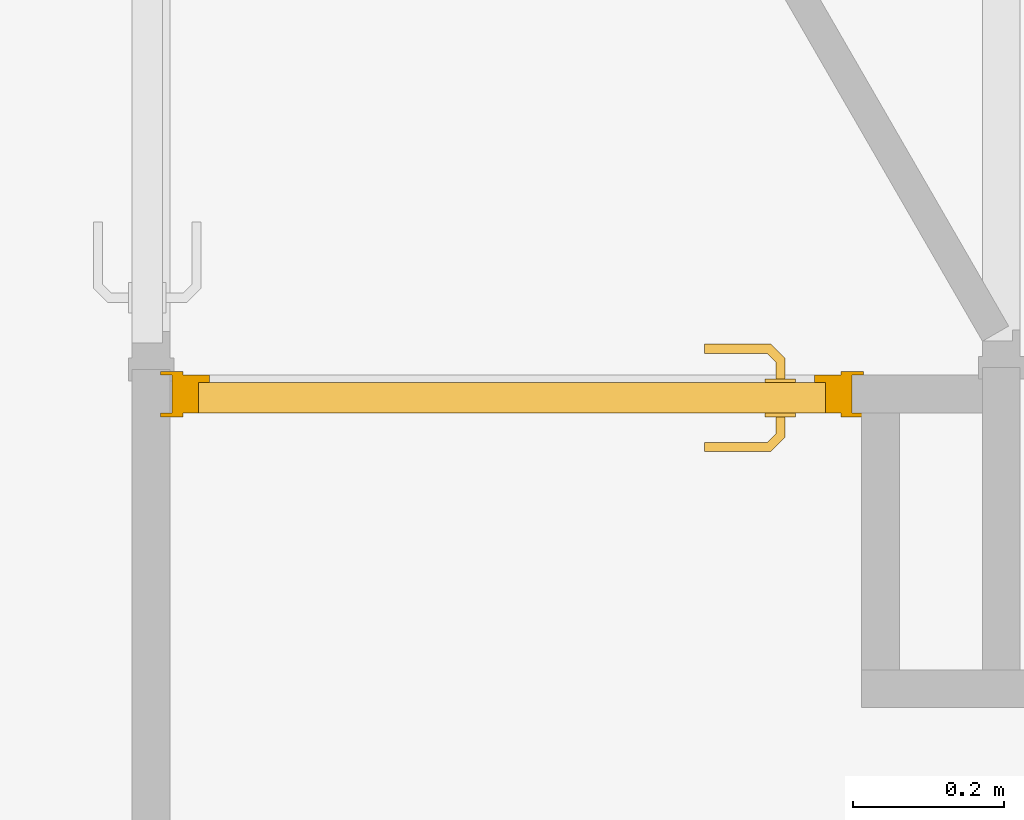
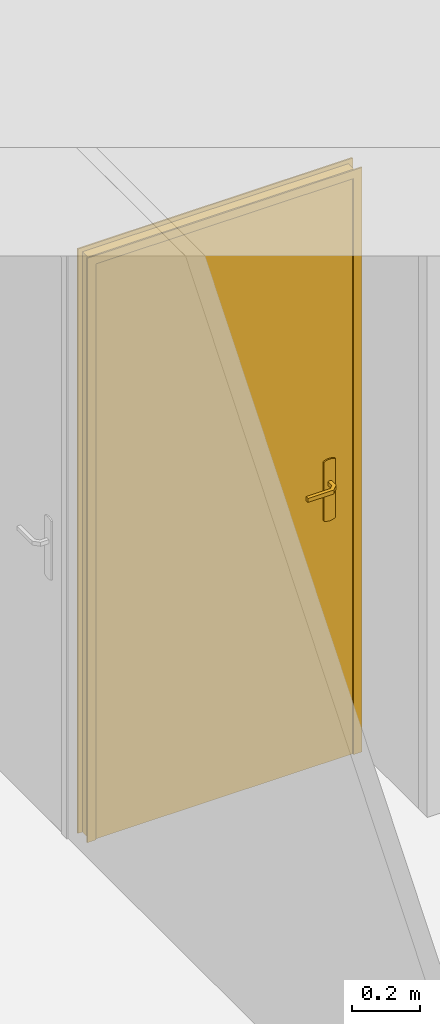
# One storey, part 9 of 14: 1 door.
"""IFC2X3 building model written with IfcOpenShell, lengths in millimetres."""

from ifc_helpers import new_model, entity, si_unit, converted_unit, direction, frame, origin, origin_with_axes, place, context, project, spatial, faceted_brep, element, save


model = new_model("IFC2X3")

# Units and contexts
model_context = context("Model", 3, precision=1e-05, world=origin(), true_north=direction((0.0, 1.0, 0.0)))
ifc_project = project(units=[si_unit("LENGTHUNIT", "METRE", prefix="MILLI"), si_unit("AREAUNIT", "SQUARE_METRE"), si_unit("VOLUMEUNIT", "CUBIC_METRE"), converted_unit("PLANEANGLEUNIT", "DEGREE", entity("IfcPlaneAngleMeasure", 0.01745), si_unit("PLANEANGLEUNIT", "RADIAN"), dimensions=[0, 0, 0, 0, 0, 0, 0]), si_unit("SOLIDANGLEUNIT", "STERADIAN"), si_unit("MASSUNIT", "GRAM"), si_unit("TIMEUNIT", "SECOND"), si_unit("THERMODYNAMICTEMPERATUREUNIT", "DEGREE_CELSIUS"), si_unit("LUMINOUSINTENSITYUNIT", "LUMEN")], contexts=[model_context])

# Site, building, storey
placement = place(None, origin_with_axes())
site_placement = place(placement, frame((11636.08881703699, 2815.7442167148, 4.768371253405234e-06), z_axis=(0.0, 0.0, 1.0), x_axis=(1.0, 0.0, 0.0)))
site = spatial("IfcSite", under=ifc_project, at=site_placement, Name="Surface", CompositionType="ELEMENT")
building_placement = place(placement, origin_with_axes())
building = spatial("IfcBuilding", under=site, at=building_placement, Name="Default Building", CompositionType="ELEMENT")
storey_placement = place(building_placement, origin_with_axes())
storey = spatial("IfcBuildingStorey", under=building, at=storey_placement, Name="Plan étage", CompositionType="ELEMENT", Elevation=0.0)

# Door
door_placement = place(storey_placement, frame((11636.08881703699, 2815.7442167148, 4.768371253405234e-06), z_axis=(0.0, 0.0, 1.0), x_axis=(1.0, 0.0, 0.0)))
element("IfcDoor", 1, at=door_placement, inside=storey, Name="IfcDoor - Int. Simple:PP (0.83m x 2.04m)", context=model_context, shape_type="Brep", body=[
    faceted_brep([(-768.5888164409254, 409.2557839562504, 2740.000042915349), (-738.5888152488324, 414.2557829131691, 2740.000042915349), (-738.5888152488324, 409.2557839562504, 2740.000042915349), (-768.5888164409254, 414.2557829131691, 2740.000042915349), (-1638.588821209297, 409.2557839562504, 2740.000042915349), (-1668.58882240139, 414.2557829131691, 2740.000042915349), (-1638.588821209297, 414.2557829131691, 2740.000042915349), (-1668.58882240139, 409.2557839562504, 2740.000042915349), (-768.5888164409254, 409.2557839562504, 4799.99998569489), (-1638.588821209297, 414.2557829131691, 4799.99998569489), (-768.5888164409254, 414.2557829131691, 4799.99998569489), (-1638.588821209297, 409.2557839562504, 4799.99998569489), (-738.5888152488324, 414.2557829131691, 4829.99995708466), (-1668.58882240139, 409.2557839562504, 4829.99995708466), (-738.5888152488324, 409.2557839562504, 4829.99995708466), (-1668.58882240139, 414.2557829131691, 4829.99995708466), (-768.5888164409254, 464.2557836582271, 4799.99998569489), (-1638.588821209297, 469.2557826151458, 4799.99998569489), (-768.5888164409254, 469.2557826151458, 4799.99998569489), (-1638.588821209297, 464.2557836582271, 4799.99998569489), (-738.5888152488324, 469.2557826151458, 4829.99995708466), (-1668.58882240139, 464.2557836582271, 4829.99995708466), (-738.5888152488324, 464.2557836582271, 4829.99995708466), (-1668.58882240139, 469.2557826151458, 4829.99995708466), (-1668.58882240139, 464.2557836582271, 2740.000042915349), (-1668.58882240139, 469.2557826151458, 2740.000042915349), (-1638.588821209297, 469.2557826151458, 2740.000042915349), (-1638.588821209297, 464.2557836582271, 2740.000042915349), (-768.5888164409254, 464.2557836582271, 2740.000042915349), (-768.5888164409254, 469.2557826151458, 2740.000042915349), (-738.5888152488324, 469.2557826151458, 2740.000042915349), (-738.5888152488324, 464.2557836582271, 2740.000042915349), (-788.5888271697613, 414.2557829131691, 4780.000004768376), (-1618.588810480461, 454.255782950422, 4780.000004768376), (-788.5888271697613, 454.255782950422, 4780.000004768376), (-1618.588810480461, 414.2557829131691, 4780.000004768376), (-803.5888128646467, 454.255782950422, 4765.000019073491), (-1603.588824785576, 464.2557836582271, 4765.000019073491), (-803.5888128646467, 464.2557836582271, 4765.000019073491), (-1603.588824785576, 454.255782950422, 4765.000019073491), (-753.5888307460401, 464.2557836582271, 4814.999971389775), (-1653.588806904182, 414.2557829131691, 4814.999971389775), (-753.5888307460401, 414.2557829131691, 4814.999971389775), (-1653.588806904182, 464.2557836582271, 4814.999971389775), (-1618.588810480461, 454.255782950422, 2740.000042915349), (-1618.588810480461, 414.2557829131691, 2740.000042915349), (-1603.588824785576, 464.2557836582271, 2740.000042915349), (-1603.588824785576, 454.255782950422, 2740.000042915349), (-1653.588806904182, 464.2557836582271, 2740.000042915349), (-1653.588806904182, 414.2557829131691, 2740.000042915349), (-788.5888271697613, 414.2557829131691, 2740.000042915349), (-753.5888307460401, 414.2557829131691, 2740.000042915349), (-788.5888271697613, 454.255782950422, 2740.000042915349), (-803.5888128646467, 454.255782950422, 2740.000042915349), (-803.5888128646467, 464.2557836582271, 2740.000042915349), (-753.5888307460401, 464.2557836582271, 2740.000042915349), (-788.5888271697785, 454.2557828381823, 4779.999980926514), (-788.5888271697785, 414.2557837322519, 2740.000019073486), (-788.5888271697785, 454.2557828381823, 2740.000019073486), (-788.5888271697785, 414.2557837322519, 4779.999980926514), (-1618.588810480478, 414.2557837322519, 2740.000019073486), (-1618.588810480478, 454.2557828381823, 2740.000019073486), (-1618.588810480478, 414.2557837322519, 4779.999980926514), (-1618.588810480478, 454.2557828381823, 4779.999980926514), (-864.4277258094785, 497.2009741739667, 3732.219558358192), (-906.5311635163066, 499.2262654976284, 3732.121313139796), (-862.7499128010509, 501.2515642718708, 3732.219558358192), (-901.034022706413, 505.2262702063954, 3732.999999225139), (-907.3543390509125, 493.2262682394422, 3732.999999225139), (-948.6346012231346, 497.2009741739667, 3732.219558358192), (-948.6346012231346, 501.2515642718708, 3732.219558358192), (-948.6346012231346, 493.2262682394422, 3732.999999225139), (-866.0741010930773, 493.2262682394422, 3732.999999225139), (-861.1035375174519, 505.2262702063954, 3732.999999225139), (-948.6346012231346, 505.2262702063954, 3732.999999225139), (-861.1035375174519, 505.2262702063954, 3747.000001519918), (-901.0340245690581, 505.2262702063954, 3747.000001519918), (-948.6346012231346, 505.2262702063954, 3747.000001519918), (-948.6346012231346, 497.2009741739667, 3747.780442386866), (-906.5311635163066, 499.2262654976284, 3747.878685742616), (-948.6346012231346, 501.2515642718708, 3747.780442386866), (-907.3543520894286, 493.2262682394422, 3747.000001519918), (-864.4277258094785, 497.2009741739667, 3747.780442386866), (-862.7499128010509, 501.2515642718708, 3747.780442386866), (-948.6346012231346, 493.2262682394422, 3747.000001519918), (-866.0741010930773, 493.2262682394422, 3747.000001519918), (-850.6141184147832, 483.3873630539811, 3732.219558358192), (-854.5888206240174, 481.7409896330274, 3732.999999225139), (-842.5888186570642, 486.7115513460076, 3732.999999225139), (-846.5635208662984, 485.0651741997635, 3732.219558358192), (-842.5888186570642, 486.7115513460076, 3747.000001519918), (-846.5635208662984, 485.0651741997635, 3747.780442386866), (-854.5888206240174, 481.7409896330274, 3747.000001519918), (-850.6141184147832, 483.3873630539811, 3747.780442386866), (-850.6141184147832, 459.255783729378, 3732.219558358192), (-854.5888206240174, 459.255783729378, 3732.999999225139), (-846.5635208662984, 459.255783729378, 3732.219558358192), (-842.5888186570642, 459.255783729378, 3732.999999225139), (-842.5888186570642, 459.255783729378, 3747.000001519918), (-846.5635208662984, 459.255783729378, 3747.780442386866), (-850.6141184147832, 459.255783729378, 3747.780442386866), (-854.5888206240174, 459.255783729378, 3747.000001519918), (-948.6074587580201, 363.2276215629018, 3732.999999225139), (-900.8965157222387, 363.2276215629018, 3747.000001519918), (-948.6074587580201, 363.2276215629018, 3747.000001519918), (-860.966029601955, 363.2276215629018, 3747.000001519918), (-900.896508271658, 363.2276215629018, 3732.999999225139), (-860.966029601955, 363.2276215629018, 3732.999999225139), (-948.6074587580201, 371.2529175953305, 3732.219558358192), (-906.4488383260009, 369.2276188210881, 3732.121313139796), (-948.6074587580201, 367.2023274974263, 3732.219558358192), (-907.2720250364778, 375.2276235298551, 3732.999999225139), (-864.2902160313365, 371.2529175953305, 3732.219558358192), (-862.6124048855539, 367.2023274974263, 3732.219558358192), (-948.6074587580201, 375.2276235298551, 3732.999999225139), (-865.9365913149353, 375.2276235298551, 3732.999999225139), (-948.6074587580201, 375.2276235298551, 3747.000001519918), (-907.2720250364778, 375.2276235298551, 3747.000001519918), (-865.9365913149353, 375.2276235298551, 3747.000001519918), (-864.2902160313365, 371.2529175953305, 3747.780442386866), (-906.4488383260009, 369.2276262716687, 3747.878685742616), (-862.6124048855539, 367.2023274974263, 3747.780442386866), (-948.6074587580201, 371.2529175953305, 3747.780442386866), (-948.6074587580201, 367.2023274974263, 3747.780442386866), (-842.5888186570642, 381.6048325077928, 3732.999999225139), (-842.5888186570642, 381.6048325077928, 3747.000001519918), (-846.5635208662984, 383.2512059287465, 3732.219558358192), (-854.5888206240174, 386.575394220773, 3732.999999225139), (-850.6141184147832, 384.9290207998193, 3732.219558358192), (-854.5888206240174, 386.575394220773, 3747.000001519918), (-850.6141184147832, 384.9290207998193, 3747.780442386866), (-846.5635208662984, 383.2512059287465, 3747.780442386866), (-842.5888186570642, 409.25578298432, 3732.999999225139), (-842.5888186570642, 409.25578298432, 3747.000001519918), (-846.5635208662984, 409.25578298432, 3732.219558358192), (-850.6141184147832, 409.25578298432, 3732.219558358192), (-854.5888206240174, 409.25578298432, 3732.999999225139), (-854.5888206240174, 409.25578298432, 3747.000001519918), (-850.6141184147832, 409.25578298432, 3747.780442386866), (-846.5635208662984, 409.25578298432, 3747.780442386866), (-868.588819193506, 459.255783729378, 3610.000003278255), (-868.588819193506, 454.2557829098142, 3819.999996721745), (-868.588819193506, 459.255783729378, 3819.999996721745), (-868.588819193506, 454.2557829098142, 3610.000003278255), (-858.9415801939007, 454.2557829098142, 3606.003981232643), (-858.9415801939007, 459.255783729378, 3606.003981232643), (-848.5888196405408, 459.255783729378, 3604.641016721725), (-848.5888196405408, 454.2557829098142, 3604.641016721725), (-838.2360553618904, 459.255783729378, 3606.003981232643), (-838.2360553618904, 454.2557829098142, 3606.003981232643), (-828.5888200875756, 459.255783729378, 3610.000003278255), (-828.5888200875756, 454.2557829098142, 3610.000003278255), (-828.5888200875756, 454.2557829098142, 3819.999996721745), (-828.5888200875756, 459.255783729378, 3819.999996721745), (-838.2360553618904, 454.2557829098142, 3823.996018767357), (-838.2360553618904, 459.255783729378, 3823.996018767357), (-848.5888196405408, 459.255783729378, 3825.358983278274), (-848.5888196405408, 454.2557829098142, 3825.358983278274), (-858.9415801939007, 459.255783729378, 3823.996018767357), (-858.9415801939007, 454.2557829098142, 3823.996018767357), (-828.5888200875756, 414.2557838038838, 3610.000003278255), (-828.5888200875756, 409.25578298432, 3819.999996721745), (-828.5888200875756, 409.25578298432, 3610.000003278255), (-828.5888200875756, 414.2557838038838, 3819.999996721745), (-838.2360553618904, 409.25578298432, 3823.996018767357), (-838.2360553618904, 414.2557838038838, 3823.996018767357), (-848.5888196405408, 414.2557838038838, 3825.358983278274), (-848.5888196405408, 409.25578298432, 3825.358983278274), (-858.9415801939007, 414.2557838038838, 3823.996018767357), (-858.9415801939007, 409.25578298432, 3823.996018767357), (-868.588819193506, 414.2557838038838, 3819.999996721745), (-868.588819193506, 409.25578298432, 3819.999996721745), (-868.588819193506, 414.2557838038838, 3610.000003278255), (-868.588819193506, 409.25578298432, 3610.000003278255), (-858.9415801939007, 409.25578298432, 3606.003981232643), (-858.9415801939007, 414.2557838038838, 3606.003981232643), (-848.5888196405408, 414.2557838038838, 3604.641016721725), (-848.5888196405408, 409.25578298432, 3604.641016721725), (-838.2360553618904, 414.2557838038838, 3606.003981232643), (-838.2360553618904, 409.25578298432, 3606.003981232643)], [[[0, 1, 2]], [[0, 3, 1]], [[4, 5, 6]], [[4, 7, 5]], [[8, 9, 10]], [[8, 11, 9]], [[12, 13, 14]], [[12, 15, 13]], [[15, 7, 13]], [[15, 5, 7]], [[11, 6, 9]], [[11, 4, 6]], [[0, 10, 3]], [[0, 8, 10]], [[12, 10, 15]], [[1, 10, 12]], [[10, 1, 3]], [[9, 15, 10]], [[6, 15, 9]], [[15, 6, 5]], [[1, 14, 2]], [[1, 12, 14]], [[13, 11, 14]], [[7, 11, 13]], [[11, 7, 4]], [[8, 14, 11]], [[0, 14, 8]], [[14, 0, 2]], [[16, 17, 18]], [[16, 19, 17]], [[20, 21, 22]], [[20, 23, 21]], [[23, 24, 21]], [[23, 25, 24]], [[19, 26, 17]], [[19, 27, 26]], [[27, 25, 26]], [[27, 24, 25]], [[28, 18, 29]], [[28, 16, 18]], [[20, 18, 23]], [[30, 18, 20]], [[18, 30, 29]], [[17, 23, 18]], [[26, 23, 17]], [[23, 26, 25]], [[30, 22, 31]], [[30, 20, 22]], [[21, 19, 22]], [[24, 19, 21]], [[19, 24, 27]], [[16, 22, 19]], [[28, 22, 16]], [[22, 28, 31]], [[28, 30, 31]], [[28, 29, 30]], [[32, 33, 34]], [[32, 35, 33]], [[36, 37, 38]], [[36, 39, 37]], [[40, 41, 42]], [[40, 43, 41]], [[35, 44, 33]], [[35, 45, 44]], [[39, 46, 37]], [[39, 47, 46]], [[47, 48, 46]], [[44, 48, 47]], [[45, 48, 44]], [[48, 45, 49]], [[43, 49, 41]], [[43, 48, 49]], [[41, 35, 42]], [[49, 35, 41]], [[35, 49, 45]], [[32, 42, 35]], [[50, 42, 32]], [[42, 50, 51]], [[50, 34, 52]], [[50, 32, 34]], [[33, 39, 34]], [[44, 39, 33]], [[39, 44, 47]], [[36, 34, 39]], [[53, 34, 36]], [[34, 53, 52]], [[53, 38, 54]], [[53, 36, 38]], [[40, 38, 43]], [[55, 38, 40]], [[38, 55, 54]], [[37, 43, 38]], [[46, 43, 37]], [[43, 46, 48]], [[55, 42, 51]], [[55, 40, 42]], [[54, 52, 53]], [[55, 52, 54]], [[55, 50, 52]], [[50, 55, 51]], [[56, 57, 58]], [[56, 59, 57]], [[58, 60, 61]], [[58, 57, 60]], [[61, 62, 63]], [[61, 60, 62]], [[63, 59, 56]], [[63, 62, 59]], [[59, 60, 57]], [[59, 62, 60]], [[56, 61, 63]], [[56, 58, 61]], [[64, 65, 66]], [[65, 67, 66]], [[65, 68, 69]], [[65, 69, 70]], [[71, 69, 68]], [[68, 64, 72]], [[64, 68, 65]], [[67, 73, 66]], [[67, 70, 74]], [[65, 70, 67]], [[67, 75, 73]], [[74, 75, 67]], [[74, 76, 75]], [[76, 74, 77]], [[78, 79, 80]], [[79, 81, 82]], [[79, 82, 83]], [[79, 83, 76]], [[76, 83, 75]], [[80, 76, 77]], [[78, 84, 81]], [[82, 81, 85]], [[80, 79, 76]], [[79, 78, 81]], [[81, 72, 85]], [[84, 72, 81]], [[84, 68, 72]], [[68, 84, 71]], [[70, 77, 74]], [[70, 80, 77]], [[69, 80, 70]], [[69, 78, 80]], [[69, 84, 78]], [[84, 69, 71]], [[86, 72, 64]], [[86, 87, 72]], [[88, 66, 73]], [[88, 89, 66]], [[73, 90, 88]], [[73, 75, 90]], [[90, 83, 91]], [[90, 75, 83]], [[92, 82, 85]], [[92, 93, 82]], [[85, 87, 92]], [[85, 72, 87]], [[94, 87, 86]], [[94, 95, 87]], [[66, 86, 64]], [[86, 66, 89]], [[89, 94, 86]], [[94, 89, 96]], [[97, 89, 88]], [[97, 96, 89]], [[90, 97, 88]], [[90, 98, 97]], [[98, 91, 99]], [[98, 90, 91]], [[91, 100, 99]], [[91, 93, 100]], [[83, 93, 91]], [[93, 83, 82]], [[100, 92, 101]], [[100, 93, 92]], [[92, 95, 101]], [[92, 87, 95]], [[98, 96, 97]], [[99, 96, 98]], [[99, 94, 96]], [[100, 94, 99]], [[100, 95, 94]], [[95, 100, 101]], [[102, 103, 104]], [[102, 105, 103]], [[106, 105, 102]], [[105, 106, 107]], [[108, 109, 110]], [[109, 111, 112]], [[109, 112, 113]], [[109, 113, 106]], [[106, 113, 107]], [[110, 106, 102]], [[108, 114, 111]], [[112, 111, 115]], [[110, 109, 106]], [[109, 108, 111]], [[116, 115, 114]], [[117, 115, 116]], [[115, 117, 118]], [[119, 120, 121]], [[120, 103, 121]], [[120, 117, 122]], [[120, 122, 123]], [[116, 122, 117]], [[117, 119, 118]], [[119, 117, 120]], [[103, 105, 121]], [[103, 123, 104]], [[120, 123, 103]], [[114, 122, 116]], [[108, 122, 114]], [[108, 123, 122]], [[110, 123, 108]], [[110, 104, 123]], [[104, 110, 102]], [[105, 124, 125]], [[105, 107, 124]], [[126, 107, 113]], [[126, 124, 107]], [[127, 112, 115]], [[127, 128, 112]], [[115, 129, 127]], [[115, 118, 129]], [[130, 118, 119]], [[130, 129, 118]], [[125, 121, 105]], [[125, 131, 121]], [[125, 132, 133]], [[125, 124, 132]], [[132, 126, 134]], [[132, 124, 126]], [[126, 128, 134]], [[113, 128, 126]], [[128, 113, 112]], [[134, 128, 135]], [[135, 127, 136]], [[135, 128, 127]], [[127, 137, 136]], [[127, 129, 137]], [[138, 129, 130]], [[138, 137, 129]], [[121, 130, 119]], [[130, 131, 139]], [[131, 130, 121]], [[138, 130, 139]], [[133, 131, 125]], [[133, 139, 131]], [[134, 133, 132]], [[134, 139, 133]], [[135, 139, 134]], [[135, 138, 139]], [[135, 137, 138]], [[137, 135, 136]], [[140, 141, 142]], [[140, 143, 141]], [[144, 140, 145]], [[144, 143, 140]], [[144, 146, 147]], [[144, 145, 146]], [[147, 148, 149]], [[147, 146, 148]], [[149, 150, 151]], [[149, 148, 150]], [[150, 152, 151]], [[150, 153, 152]], [[154, 153, 155]], [[154, 152, 153]], [[154, 156, 157]], [[154, 155, 156]], [[157, 158, 159]], [[157, 156, 158]], [[159, 142, 141]], [[159, 158, 142]], [[146, 150, 148]], [[146, 153, 150]], [[145, 153, 146]], [[145, 155, 153]], [[140, 155, 145]], [[140, 156, 155]], [[140, 158, 156]], [[158, 140, 142]], [[159, 154, 157]], [[141, 154, 159]], [[141, 152, 154]], [[141, 151, 152]], [[143, 151, 141]], [[144, 151, 143]], [[144, 149, 151]], [[149, 144, 147]], [[160, 161, 162]], [[160, 163, 161]], [[164, 163, 165]], [[164, 161, 163]], [[164, 166, 167]], [[164, 165, 166]], [[167, 168, 169]], [[167, 166, 168]], [[169, 170, 171]], [[169, 168, 170]], [[172, 171, 170]], [[172, 173, 171]], [[174, 172, 175]], [[174, 173, 172]], [[174, 176, 177]], [[174, 175, 176]], [[177, 178, 179]], [[177, 176, 178]], [[179, 160, 162]], [[179, 178, 160]], [[175, 178, 176]], [[172, 178, 175]], [[172, 160, 178]], [[170, 160, 172]], [[170, 163, 160]], [[168, 163, 170]], [[168, 165, 163]], [[165, 168, 166]], [[169, 164, 167]], [[171, 164, 169]], [[171, 161, 164]], [[171, 162, 161]], [[173, 162, 171]], [[174, 162, 173]], [[174, 179, 162]], [[179, 174, 177]]]),
])

save(model, "model.ifc")
